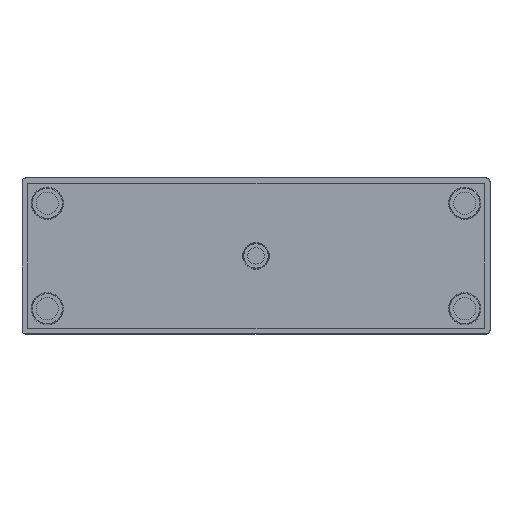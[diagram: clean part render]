
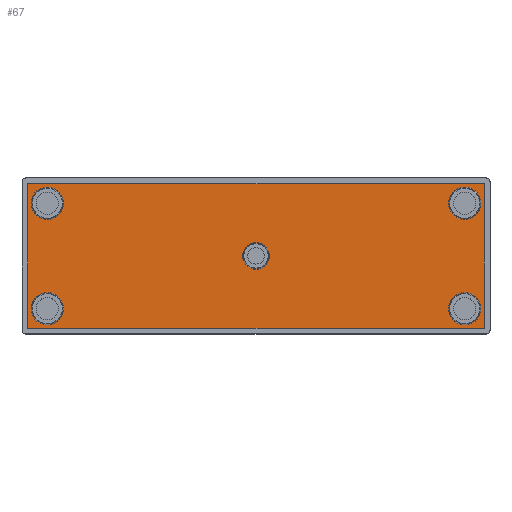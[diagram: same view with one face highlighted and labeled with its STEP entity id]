
A CAD part, top view. The second image highlights one B-rep face of the part: STEP entity #67.
In plain terms, the highlighted planar face has unit normal (0, 0, 1).
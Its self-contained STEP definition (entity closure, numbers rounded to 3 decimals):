
#28 = DIRECTION ( 'NONE',  ( 0., 0., 1. ) ) ;
#32 = CARTESIAN_POINT ( 'NONE',  ( 57.65, 13.5, 1.5 ) ) ;
#49 = CARTESIAN_POINT ( 'NONE',  ( -58.5, -18.5, 1.5 ) ) ;
#64 = CIRCLE ( 'NONE', #1582, 4.15 ) ;
#67 = ADVANCED_FACE ( 'NONE', ( #228, #843, #851, #1232, #1114, #847 ), #373, .F. ) ;
#72 = DIRECTION ( 'NONE',  ( -1., 0., 0. ) ) ;
#136 = CARTESIAN_POINT ( 'NONE',  ( 49.35, 13.5, 1.5 ) ) ;
#137 = EDGE_CURVE ( 'NONE', #1023, #892, #1017, .T. ) ;
#145 = ORIENTED_EDGE ( 'NONE', *, *, #1743, .F. ) ;
#150 = DIRECTION ( 'NONE',  ( 0., 0., 1. ) ) ;
#171 = EDGE_CURVE ( 'NONE', #1312, #714, #1358, .T. ) ;
#188 = CARTESIAN_POINT ( 'NONE',  ( -58.5, -18.5, 1.5 ) ) ;
#190 = DIRECTION ( 'NONE',  ( -1., 0., 0. ) ) ;
#228 = FACE_BOUND ( 'NONE', #1529, .T. ) ;
#234 = AXIS2_PLACEMENT_3D ( 'NONE', #1303, #372, #190 ) ;
#245 = VERTEX_POINT ( 'NONE', #580 ) ;
#250 = CARTESIAN_POINT ( 'NONE',  ( 58.5, -18.5, 1.5 ) ) ;
#281 = ORIENTED_EDGE ( 'NONE', *, *, #712, .F. ) ;
#313 = AXIS2_PLACEMENT_3D ( 'NONE', #1942, #419, #72 ) ;
#324 = DIRECTION ( 'NONE',  ( 0., 0., 1. ) ) ;
#336 = EDGE_CURVE ( 'NONE', #1009, #1810, #1020, .T. ) ;
#372 = DIRECTION ( 'NONE',  ( 0., 0., 1. ) ) ;
#373 = PLANE ( 'NONE',  #821 ) ;
#419 = DIRECTION ( 'NONE',  ( 0., 0., 1. ) ) ;
#424 = EDGE_LOOP ( 'NONE', ( #281, #1964 ) ) ;
#432 = EDGE_CURVE ( 'NONE', #651, #1147, #944, .T. ) ;
#442 = AXIS2_PLACEMENT_3D ( 'NONE', #1856, #28, #1711 ) ;
#455 = EDGE_LOOP ( 'NONE', ( #1432, #1040 ) ) ;
#479 = ORIENTED_EDGE ( 'NONE', *, *, #336, .F. ) ;
#504 = ORIENTED_EDGE ( 'NONE', *, *, #830, .F. ) ;
#509 = VERTEX_POINT ( 'NONE', #1124 ) ;
#511 = EDGE_CURVE ( 'NONE', #714, #651, #1189, .T. ) ;
#544 = CARTESIAN_POINT ( 'NONE',  ( -53.5, 13.5, 1.5 ) ) ;
#559 = VERTEX_POINT ( 'NONE', #1286 ) ;
#562 = DIRECTION ( 'NONE',  ( -1., 0., 0. ) ) ;
#568 = DIRECTION ( 'NONE',  ( 0., 0., 1. ) ) ;
#580 = CARTESIAN_POINT ( 'NONE',  ( -49.35, -13.5, 1.5 ) ) ;
#622 = CIRCLE ( 'NONE', #1331, 4.15 ) ;
#651 = VERTEX_POINT ( 'NONE', #1631 ) ;
#663 = DIRECTION ( 'NONE',  ( -1., 0., 0. ) ) ;
#667 = DIRECTION ( 'NONE',  ( 0., 0., -1. ) ) ;
#670 = EDGE_CURVE ( 'NONE', #1910, #559, #1321, .T. ) ;
#687 = AXIS2_PLACEMENT_3D ( 'NONE', #1386, #324, #1231 ) ;
#712 = EDGE_CURVE ( 'NONE', #509, #1811, #1605, .T. ) ;
#714 = VERTEX_POINT ( 'NONE', #1172 ) ;
#718 = AXIS2_PLACEMENT_3D ( 'NONE', #1796, #568, #1495 ) ;
#753 = ORIENTED_EDGE ( 'NONE', *, *, #1123, .F. ) ;
#762 = EDGE_CURVE ( 'NONE', #892, #1023, #997, .T. ) ;
#778 = ORIENTED_EDGE ( 'NONE', *, *, #432, .T. ) ;
#791 = EDGE_LOOP ( 'NONE', ( #1151, #753 ) ) ;
#802 = VECTOR ( 'NONE', #1407, 1000. ) ;
#804 = EDGE_CURVE ( 'NONE', #1624, #245, #622, .T. ) ;
#821 = AXIS2_PLACEMENT_3D ( 'NONE', #967, #667, #1478 ) ;
#830 = EDGE_CURVE ( 'NONE', #1810, #1009, #1027, .T. ) ;
#843 = FACE_BOUND ( 'NONE', #424, .T. ) ;
#847 = FACE_OUTER_BOUND ( 'NONE', #900, .T. ) ;
#851 = FACE_BOUND ( 'NONE', #455, .T. ) ;
#892 = VERTEX_POINT ( 'NONE', #136 ) ;
#900 = EDGE_LOOP ( 'NONE', ( #1653, #1239, #778, #1587 ) ) ;
#944 = LINE ( 'NONE', #49, #802 ) ;
#953 = CIRCLE ( 'NONE', #442, 4.15 ) ;
#967 = CARTESIAN_POINT ( 'NONE',  ( 0., 0., 1.5 ) ) ;
#997 = CIRCLE ( 'NONE', #718, 4.15 ) ;
#1002 = CARTESIAN_POINT ( 'NONE',  ( -3.4, 0., 1.5 ) ) ;
#1009 = VERTEX_POINT ( 'NONE', #1839 ) ;
#1017 = CIRCLE ( 'NONE', #1030, 4.15 ) ;
#1020 = CIRCLE ( 'NONE', #687, 4.15 ) ;
#1023 = VERTEX_POINT ( 'NONE', #32 ) ;
#1027 = CIRCLE ( 'NONE', #1868, 4.15 ) ;
#1030 = AXIS2_PLACEMENT_3D ( 'NONE', #1367, #1705, #1663 ) ;
#1032 = DIRECTION ( 'NONE',  ( 0., 0., 1. ) ) ;
#1040 = ORIENTED_EDGE ( 'NONE', *, *, #137, .F. ) ;
#1059 = CARTESIAN_POINT ( 'NONE',  ( 58.5, -18.5, 1.5 ) ) ;
#1114 = FACE_BOUND ( 'NONE', #1291, .T. ) ;
#1115 = CARTESIAN_POINT ( 'NONE',  ( -58.5, 18.5, 1.5 ) ) ;
#1123 = EDGE_CURVE ( 'NONE', #245, #1624, #953, .T. ) ;
#1124 = CARTESIAN_POINT ( 'NONE',  ( 49.35, -13.5, 1.5 ) ) ;
#1147 = VERTEX_POINT ( 'NONE', #188 ) ;
#1151 = ORIENTED_EDGE ( 'NONE', *, *, #804, .F. ) ;
#1172 = CARTESIAN_POINT ( 'NONE',  ( 58.5, 18.5, 1.5 ) ) ;
#1180 = DIRECTION ( 'NONE',  ( 0., 0., 1. ) ) ;
#1189 = LINE ( 'NONE', #1115, #1540 ) ;
#1231 = DIRECTION ( 'NONE',  ( -1., 0., 0. ) ) ;
#1232 = FACE_BOUND ( 'NONE', #791, .T. ) ;
#1239 = ORIENTED_EDGE ( 'NONE', *, *, #511, .T. ) ;
#1252 = EDGE_CURVE ( 'NONE', #1811, #509, #64, .T. ) ;
#1286 = CARTESIAN_POINT ( 'NONE',  ( 3.4, 0., 1.5 ) ) ;
#1291 = EDGE_LOOP ( 'NONE', ( #504, #479 ) ) ;
#1301 = CARTESIAN_POINT ( 'NONE',  ( 53.5, -13.5, 1.5 ) ) ;
#1303 = CARTESIAN_POINT ( 'NONE',  ( 0., 0., 1.5 ) ) ;
#1312 = VERTEX_POINT ( 'NONE', #250 ) ;
#1321 = CIRCLE ( 'NONE', #1800, 3.4 ) ;
#1331 = AXIS2_PLACEMENT_3D ( 'NONE', #1834, #150, #1879 ) ;
#1358 = LINE ( 'NONE', #1059, #1591 ) ;
#1367 = CARTESIAN_POINT ( 'NONE',  ( 53.5, 13.5, 1.5 ) ) ;
#1386 = CARTESIAN_POINT ( 'NONE',  ( -53.5, 13.5, 1.5 ) ) ;
#1407 = DIRECTION ( 'NONE',  ( 0., -1., 0. ) ) ;
#1432 = ORIENTED_EDGE ( 'NONE', *, *, #762, .F. ) ;
#1466 = EDGE_CURVE ( 'NONE', #1147, #1312, #1476, .T. ) ;
#1476 = LINE ( 'NONE', #1805, #1546 ) ;
#1478 = DIRECTION ( 'NONE',  ( -1., 0., 0. ) ) ;
#1495 = DIRECTION ( 'NONE',  ( -1., 0., 0. ) ) ;
#1500 = DIRECTION ( 'NONE',  ( -1., 0., 0. ) ) ;
#1529 = EDGE_LOOP ( 'NONE', ( #1832, #145 ) ) ;
#1537 = CARTESIAN_POINT ( 'NONE',  ( 57.65, -13.5, 1.5 ) ) ;
#1540 = VECTOR ( 'NONE', #663, 1000. ) ;
#1546 = VECTOR ( 'NONE', #1967, 1000. ) ;
#1582 = AXIS2_PLACEMENT_3D ( 'NONE', #1301, #1678, #1500 ) ;
#1587 = ORIENTED_EDGE ( 'NONE', *, *, #1466, .T. ) ;
#1591 = VECTOR ( 'NONE', #1795, 1000. ) ;
#1605 = CIRCLE ( 'NONE', #313, 4.15 ) ;
#1624 = VERTEX_POINT ( 'NONE', #1626 ) ;
#1626 = CARTESIAN_POINT ( 'NONE',  ( -57.65, -13.5, 1.5 ) ) ;
#1631 = CARTESIAN_POINT ( 'NONE',  ( -58.5, 18.5, 1.5 ) ) ;
#1637 = DIRECTION ( 'NONE',  ( -1., 0., 0. ) ) ;
#1652 = CARTESIAN_POINT ( 'NONE',  ( -57.65, 13.5, 1.5 ) ) ;
#1653 = ORIENTED_EDGE ( 'NONE', *, *, #171, .T. ) ;
#1663 = DIRECTION ( 'NONE',  ( -1., 0., 0. ) ) ;
#1678 = DIRECTION ( 'NONE',  ( 0., 0., 1. ) ) ;
#1705 = DIRECTION ( 'NONE',  ( 0., 0., 1. ) ) ;
#1711 = DIRECTION ( 'NONE',  ( -1., 0., 0. ) ) ;
#1743 = EDGE_CURVE ( 'NONE', #559, #1910, #1925, .T. ) ;
#1744 = CARTESIAN_POINT ( 'NONE',  ( 0., 0., 1.5 ) ) ;
#1795 = DIRECTION ( 'NONE',  ( 0., 1., 0. ) ) ;
#1796 = CARTESIAN_POINT ( 'NONE',  ( 53.5, 13.5, 1.5 ) ) ;
#1800 = AXIS2_PLACEMENT_3D ( 'NONE', #1744, #1032, #562 ) ;
#1805 = CARTESIAN_POINT ( 'NONE',  ( -58.5, -18.5, 1.5 ) ) ;
#1810 = VERTEX_POINT ( 'NONE', #1652 ) ;
#1811 = VERTEX_POINT ( 'NONE', #1537 ) ;
#1832 = ORIENTED_EDGE ( 'NONE', *, *, #670, .F. ) ;
#1834 = CARTESIAN_POINT ( 'NONE',  ( -53.5, -13.5, 1.5 ) ) ;
#1839 = CARTESIAN_POINT ( 'NONE',  ( -49.35, 13.5, 1.5 ) ) ;
#1856 = CARTESIAN_POINT ( 'NONE',  ( -53.5, -13.5, 1.5 ) ) ;
#1868 = AXIS2_PLACEMENT_3D ( 'NONE', #544, #1180, #1637 ) ;
#1879 = DIRECTION ( 'NONE',  ( -1., 0., 0. ) ) ;
#1910 = VERTEX_POINT ( 'NONE', #1002 ) ;
#1925 = CIRCLE ( 'NONE', #234, 3.4 ) ;
#1942 = CARTESIAN_POINT ( 'NONE',  ( 53.5, -13.5, 1.5 ) ) ;
#1964 = ORIENTED_EDGE ( 'NONE', *, *, #1252, .F. ) ;
#1967 = DIRECTION ( 'NONE',  ( 1., 0., 0. ) ) ;
